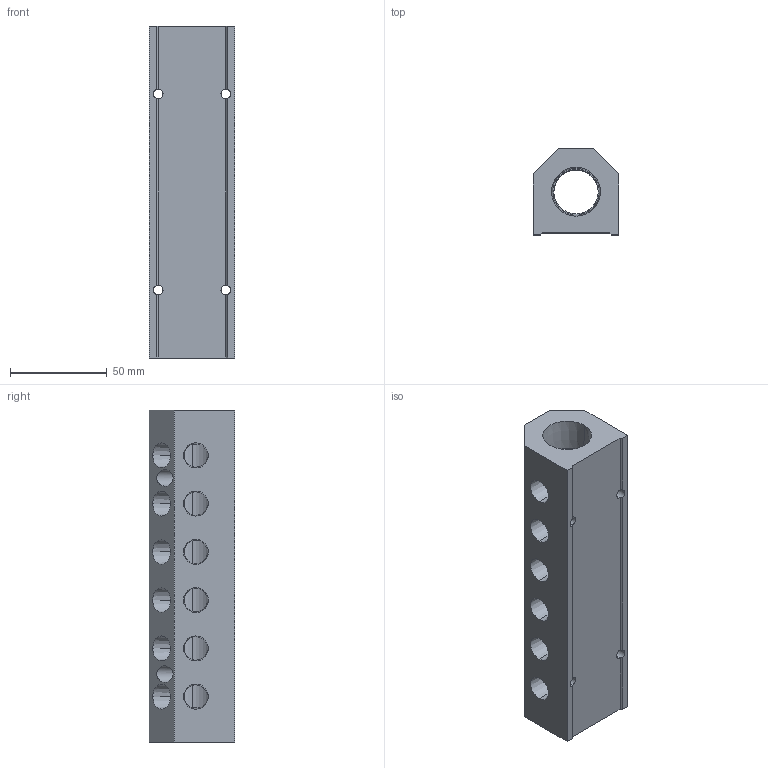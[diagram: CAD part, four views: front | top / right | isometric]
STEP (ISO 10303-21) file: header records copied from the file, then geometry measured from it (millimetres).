
FILE_DESCRIPTION (( 'STEP AP214' ), '1' );
FILE_NAME ('ALM6AB-N4N12-172R.step', '2022-02-06T14:06:07', ( '' ), ( '' ), 'SwSTEP 2.0', 'SolidWorks 2020', '' );
FILE_SCHEMA (( 'AUTOMOTIVE_DESIGN' ));
Length unit declared in the file: millimetre
Products named in the file (1): ALM6AB-N4N12-172R
Bounding box: 44.5 x 44.5 x 172 mm (x, y, z)
Volume: 211356.2 mm3; surface area: 48039 mm2
Topology: 1 solids, 1 shells, 314 faces, 866 edges, 574 vertices
Faces by surface type: plane 217, bspline 40, cone 33, cylinder 24
Entity records: 16439 total; most frequent: CARTESIAN_POINT 5913, ORIENTED_EDGE 1732, DIRECTION 1322, EDGE_CURVE 866, VECTOR 628, LINE 628, VERTEX_POINT 574, EDGE_LOOP 368
